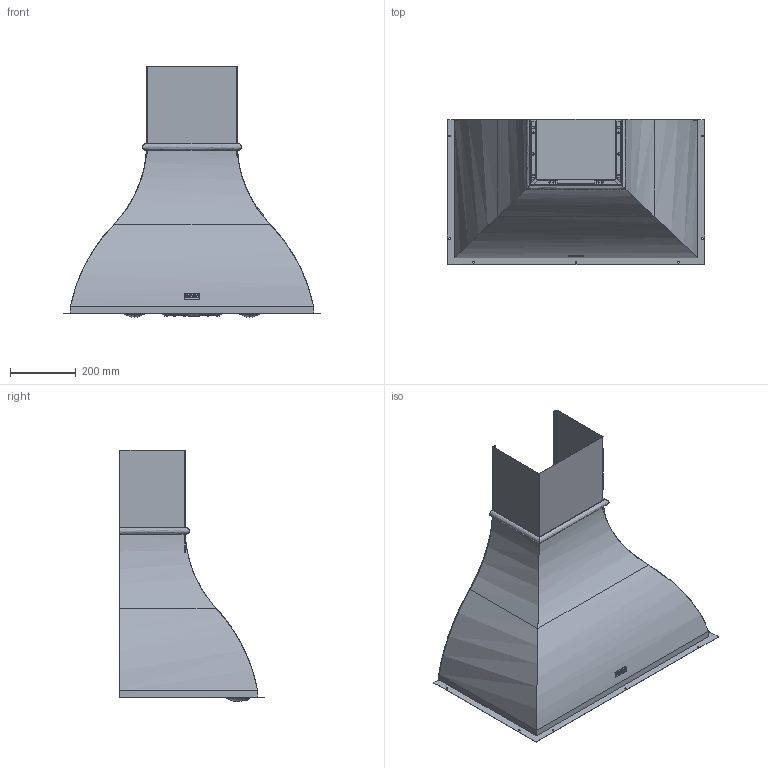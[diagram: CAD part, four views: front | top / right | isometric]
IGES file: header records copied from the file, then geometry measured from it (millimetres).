
Global section: file name: F:\_CONVERSIONE_CAD_2024_2025\03_3D kits new\07_Hoods\Solo Logo Piatto o 3D\3D001_Hoods_Country_FCS-90-NF\3D001_Hoods_Country_FCS-90-NF.igs; native system: Rhinoceros ( Jan  9 2024 ); preprocessor: Trout Lake IGES 012 Jan  9 2024; date: 240213.114251; units: millimetre
Bounding box: 782.8 x 441.2 x 762.5 mm (x, y, z)
Surface area: 5606827.9 mm2 (no closed solid volume)
Topology: 0 solids, 0 shells, 3117 faces, 19025 edges, 18993 vertices
Faces by surface type: bspline 3117
